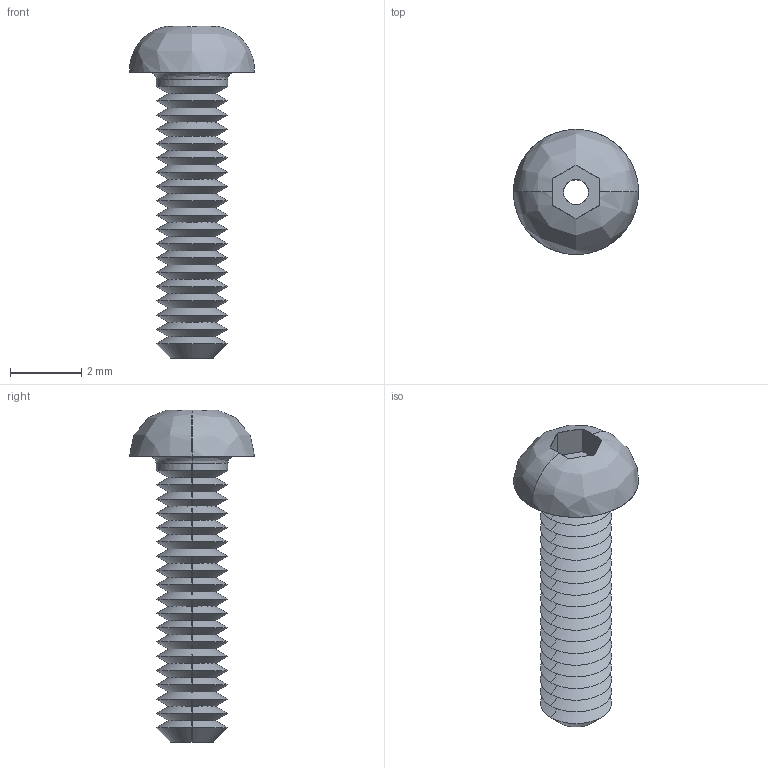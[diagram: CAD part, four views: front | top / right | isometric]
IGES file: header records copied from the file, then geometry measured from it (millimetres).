
Start section: SolidWorks IGES file using analytic representation for surfaces
Global section: file name: C:\Users\liam_\OneDrive\Documents\WORK\Work for WixRoyd\Job Files\J-00019 - Matt Davis CAD Checking\04. CAD Drawings\automotion20190605\P0094_v2\P0094_v2_20190712_IGES\P0094.020-008-A2.igs; native system: SolidWorks 2017; preprocessor: SolidWorks 2017; author: liam_; date: 190712.174938; units: millimetre
Bounding box: 3.5 x 3.5 x 9.29 mm (x, y, z)
Surface area: 126 mm2 (no closed solid volume)
Topology: 0 solids, 0 shells, 91 faces, 498 edges, 498 vertices
Faces by surface type: revolution 78, bspline 13
